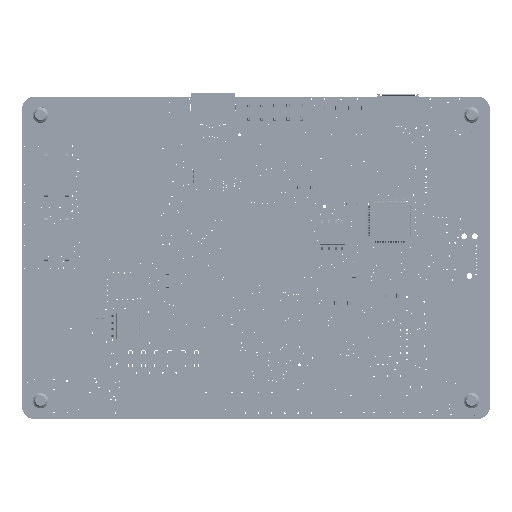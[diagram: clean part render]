
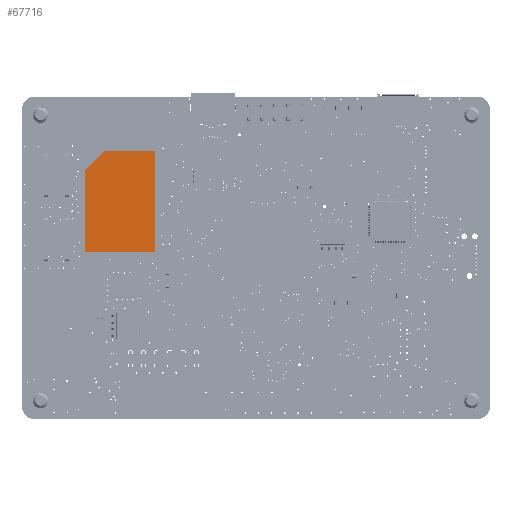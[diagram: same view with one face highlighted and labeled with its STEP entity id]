
A CAD part, top view. The second image highlights one B-rep face of the part: STEP entity #67716.
In plain terms, the highlighted planar face has unit normal (0, 0, 1).
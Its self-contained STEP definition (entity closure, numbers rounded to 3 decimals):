
#67555 = VERTEX_POINT('',#67556);
#67556 = CARTESIAN_POINT('',(-6.731,-9.69,1.8));
#67562 = EDGE_CURVE('',#67555,#67563,#67565,.T.);
#67563 = VERTEX_POINT('',#67564);
#67564 = CARTESIAN_POINT('',(-6.731,5.982,1.8));
#67565 = LINE('',#67566,#67567);
#67566 = CARTESIAN_POINT('',(-6.731,-9.69,1.8));
#67567 = VECTOR('',#67568,1.);
#67568 = DIRECTION('',(0.,1.,0.));
#67593 = EDGE_CURVE('',#67563,#67594,#67596,.T.);
#67594 = VERTEX_POINT('',#67595);
#67595 = CARTESIAN_POINT('',(-3.023,9.69,1.8));
#67596 = LINE('',#67597,#67598);
#67597 = CARTESIAN_POINT('',(-6.731,5.982,1.8));
#67598 = VECTOR('',#67599,1.);
#67599 = DIRECTION('',(0.707,0.707,0.));
#67624 = EDGE_CURVE('',#67594,#67625,#67627,.T.);
#67625 = VERTEX_POINT('',#67626);
#67626 = CARTESIAN_POINT('',(6.68,9.69,1.8));
#67627 = LINE('',#67628,#67629);
#67628 = CARTESIAN_POINT('',(-3.023,9.69,1.8));
#67629 = VECTOR('',#67630,1.);
#67630 = DIRECTION('',(1.,0.,0.));
#67655 = EDGE_CURVE('',#67625,#67656,#67658,.T.);
#67656 = VERTEX_POINT('',#67657);
#67657 = CARTESIAN_POINT('',(6.731,-9.69,1.8));
#67658 = LINE('',#67659,#67660);
#67659 = CARTESIAN_POINT('',(6.68,9.69,1.8));
#67660 = VECTOR('',#67661,1.);
#67661 = DIRECTION('',(0.003,-1.,0.));
#67686 = EDGE_CURVE('',#67656,#67555,#67687,.T.);
#67687 = LINE('',#67688,#67689);
#67688 = CARTESIAN_POINT('',(6.731,-9.69,1.8));
#67689 = VECTOR('',#67690,1.);
#67690 = DIRECTION('',(-1.,0.,0.));
#67716 = ADVANCED_FACE('',(#67717),#67724,.T.);
#67717 = FACE_BOUND('',#67718,.F.);
#67718 = EDGE_LOOP('',(#67719,#67720,#67721,#67722,#67723));
#67719 = ORIENTED_EDGE('',*,*,#67562,.T.);
#67720 = ORIENTED_EDGE('',*,*,#67593,.T.);
#67721 = ORIENTED_EDGE('',*,*,#67624,.T.);
#67722 = ORIENTED_EDGE('',*,*,#67655,.T.);
#67723 = ORIENTED_EDGE('',*,*,#67686,.T.);
#67724 = PLANE('',#67725);
#67725 = AXIS2_PLACEMENT_3D('',#67726,#67727,#67728);
#67726 = CARTESIAN_POINT('',(-6.731,-9.69,1.8));
#67727 = DIRECTION('',(0.,0.,1.));
#67728 = DIRECTION('',(1.,0.,0.));
